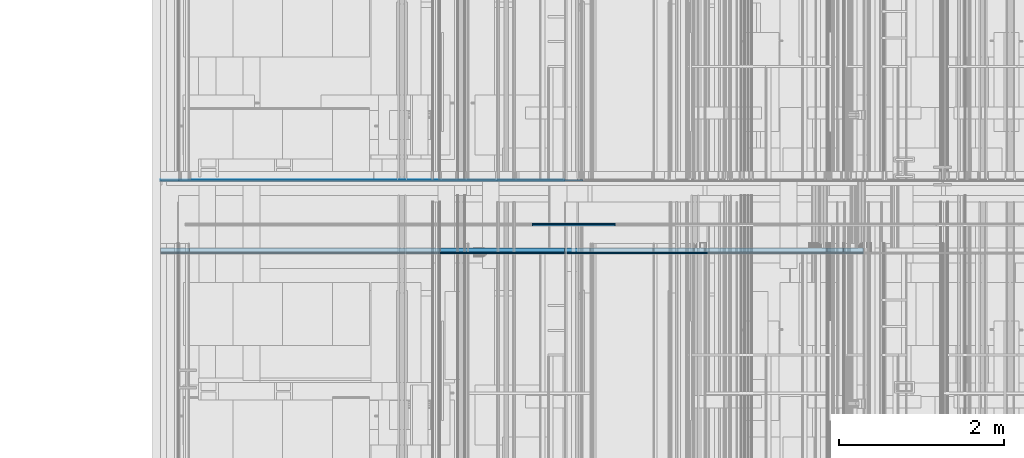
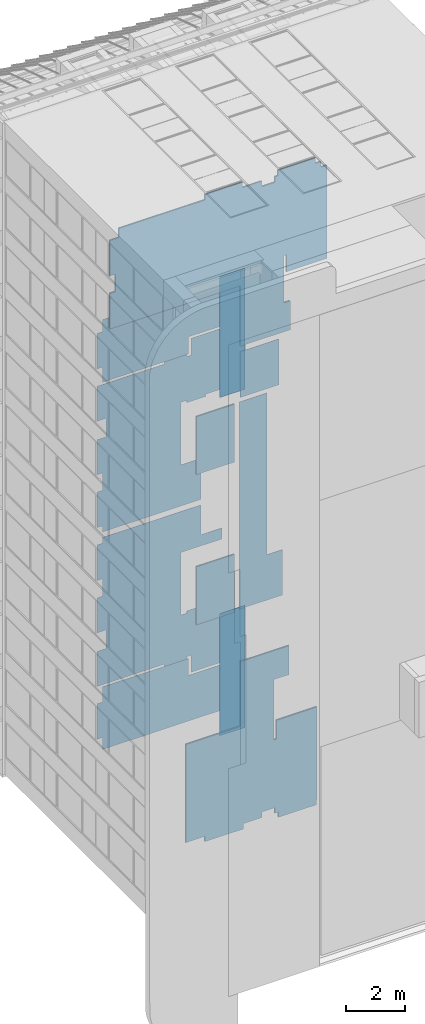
# One storey, part 248 of 583: 18 slabs.
"""IFC2X3 building model written with IfcOpenShell, lengths in metres."""

from ifc_helpers import new_model, entity, si_unit, converted_unit, derived_unit, money_unit, direction, frame, origin_with_axes, place, context, subcontext, project, spatial, faceted_brep, material, type_object, element, save


model = new_model("IFC2X3")

# Units and contexts
model_context = context("Model", 3, precision=1e-05, world=origin_with_axes(), true_north=direction((0.0, 1.0)))
body_context = subcontext(model_context, "Body", "Model", "MODEL_VIEW", scale=1.0)
ifc_project = project(units=[si_unit("LENGTHUNIT", "METRE"), si_unit("AREAUNIT", "SQUARE_METRE"), si_unit("VOLUMEUNIT", "CUBIC_METRE"), si_unit("ABSORBEDDOSEUNIT", "GRAY"), si_unit("AMOUNTOFSUBSTANCEUNIT", "MOLE"), si_unit("DOSEEQUIVALENTUNIT", "SIEVERT"), si_unit("ELECTRICCAPACITANCEUNIT", "FARAD"), si_unit("ELECTRICCHARGEUNIT", "COULOMB"), si_unit("ELECTRICCONDUCTANCEUNIT", "SIEMENS"), si_unit("ELECTRICCURRENTUNIT", "AMPERE"), si_unit("ELECTRICRESISTANCEUNIT", "OHM"), si_unit("ELECTRICVOLTAGEUNIT", "VOLT"), si_unit("ENERGYUNIT", "JOULE"), si_unit("FORCEUNIT", "NEWTON"), si_unit("FREQUENCYUNIT", "HERTZ"), si_unit("ILLUMINANCEUNIT", "LUX"), si_unit("INDUCTANCEUNIT", "HENRY"), si_unit("LUMINOUSFLUXUNIT", "LUMEN"), si_unit("LUMINOUSINTENSITYUNIT", "CANDELA"), si_unit("MAGNETICFLUXDENSITYUNIT", "TESLA"), si_unit("MAGNETICFLUXUNIT", "WEBER"), si_unit("MASSUNIT", "GRAM"), converted_unit("PLANEANGLEUNIT", "degree", entity("IfcReal", 0.0174532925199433), si_unit("PLANEANGLEUNIT", "RADIAN"), dimensions=[0, 0, 0, 0, 0, 0, 0]), si_unit("POWERUNIT", "WATT"), si_unit("PRESSUREUNIT", "PASCAL"), si_unit("RADIOACTIVITYUNIT", "BECQUEREL"), si_unit("SOLIDANGLEUNIT", "STERADIAN"), si_unit("THERMODYNAMICTEMPERATUREUNIT", "KELVIN"), si_unit("TIMEUNIT", "SECOND"), derived_unit("ACCELERATIONUNIT", [(si_unit("LENGTHUNIT", "METRE"), 1), (si_unit("TIMEUNIT", "SECOND"), -2)]), derived_unit("ANGULARVELOCITYUNIT", [(converted_unit("PLANEANGLEUNIT", "degree", entity("IfcReal", 0.0174532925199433), si_unit("PLANEANGLEUNIT", "RADIAN"), dimensions=[0, 0, 0, 0, 0, 0, 0]), 1), (si_unit("TIMEUNIT", "SECOND"), -1)]), derived_unit("CURVATUREUNIT", [(converted_unit("PLANEANGLEUNIT", "degree", entity("IfcReal", 0.0174532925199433), si_unit("PLANEANGLEUNIT", "RADIAN"), dimensions=[0, 0, 0, 0, 0, 0, 0]), 1), (si_unit("LENGTHUNIT", "METRE"), -1)]), derived_unit("DYNAMICVISCOSITYUNIT", [(si_unit("PRESSUREUNIT", "PASCAL"), 1), (si_unit("TIMEUNIT", "SECOND"), 1)]), derived_unit("HEATFLUXDENSITYUNIT", [(si_unit("POWERUNIT", "WATT"), 1), (si_unit("LENGTHUNIT", "METRE"), -2)]), derived_unit("HEATINGVALUEUNIT", [(si_unit("ENERGYUNIT", "JOULE"), 1), (si_unit("MASSUNIT", "GRAM"), -1)]), derived_unit("INTEGERCOUNTRATEUNIT", [(si_unit("TIMEUNIT", "SECOND"), -1)]), derived_unit("IONCONCENTRATIONUNIT", [(si_unit("MASSUNIT", "GRAM"), 1), (si_unit("VOLUMEUNIT", "CUBIC_METRE"), -1)]), derived_unit("ISOTHERMALMOISTURECAPACITYUNIT", [(si_unit("VOLUMEUNIT", "CUBIC_METRE"), 1), (si_unit("MASSUNIT", "GRAM"), -1)]), derived_unit("KINEMATICVISCOSITYUNIT", [(si_unit("AREAUNIT", "SQUARE_METRE"), 1), (si_unit("TIMEUNIT", "SECOND"), -1)]), derived_unit("LINEARFORCEUNIT", [(si_unit("FORCEUNIT", "NEWTON"), 1), (si_unit("LENGTHUNIT", "METRE"), -1)]), derived_unit("LINEARMOMENTUNIT", [(si_unit("FORCEUNIT", "NEWTON"), 1), (si_unit("LENGTHUNIT", "METRE"), -1)]), derived_unit("LINEARSTIFFNESSUNIT", [(si_unit("FORCEUNIT", "NEWTON"), 1), (si_unit("LENGTHUNIT", "METRE"), -1)]), derived_unit("LINEARVELOCITYUNIT", [(si_unit("LENGTHUNIT", "METRE"), 1), (si_unit("TIMEUNIT", "SECOND"), -1)]), derived_unit("LUMINOUSINTENSITYDISTRIBUTIONUNIT", [(si_unit("LUMINOUSINTENSITYUNIT", "CANDELA"), 1), (si_unit("LUMINOUSFLUXUNIT", "LUMEN"), -1)]), derived_unit("MASSDENSITYUNIT", [(si_unit("MASSUNIT", "GRAM"), 1), (si_unit("VOLUMEUNIT", "CUBIC_METRE"), -1)]), derived_unit("MASSFLOWRATEUNIT", [(si_unit("MASSUNIT", "GRAM"), 1), (si_unit("TIMEUNIT", "SECOND"), -1)]), derived_unit("MASSPERLENGTHUNIT", [(si_unit("MASSUNIT", "GRAM"), 1), (si_unit("LENGTHUNIT", "METRE"), -1)]), derived_unit("MODULUSOFELASTICITYUNIT", [(si_unit("FORCEUNIT", "NEWTON"), 1), (si_unit("AREAUNIT", "SQUARE_METRE"), -1)]), derived_unit("MODULUSOFLINEARSUBGRADEREACTIONUNIT", [(si_unit("FORCEUNIT", "NEWTON"), 1), (si_unit("LENGTHUNIT", "METRE"), -2)]), derived_unit("MODULUSOFROTATIONALSUBGRADEREACTIONUNIT", [(si_unit("FORCEUNIT", "NEWTON"), 1), (si_unit("LENGTHUNIT", "METRE"), 1)]), derived_unit("MODULUSOFSUBGRADEREACTIONUNIT", [(si_unit("FORCEUNIT", "NEWTON"), 1), (si_unit("VOLUMEUNIT", "CUBIC_METRE"), -1)]), derived_unit("MOISTUREDIFFUSIVITYUNIT", [(si_unit("VOLUMEUNIT", "CUBIC_METRE"), 1), (si_unit("TIMEUNIT", "SECOND"), -1)]), derived_unit("MOLECULARWEIGHTUNIT", [(si_unit("MASSUNIT", "GRAM"), 1), (si_unit("AMOUNTOFSUBSTANCEUNIT", "MOLE"), -1)]), derived_unit("PLANARFORCEUNIT", [(si_unit("FORCEUNIT", "NEWTON"), 1), (si_unit("LENGTHUNIT", "METRE"), -2)]), derived_unit("ROTATIONALFREQUENCYUNIT", [(si_unit("TIMEUNIT", "SECOND"), -1)]), derived_unit("ROTATIONALMASSUNIT", [(si_unit("MASSUNIT", "GRAM"), 1), (si_unit("LENGTHUNIT", "METRE"), 2)]), derived_unit("ROTATIONALSTIFFNESSUNIT", [(si_unit("FORCEUNIT", "NEWTON"), 1), (si_unit("LENGTHUNIT", "METRE"), 1), (converted_unit("PLANEANGLEUNIT", "degree", entity("IfcReal", 0.0174532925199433), si_unit("PLANEANGLEUNIT", "RADIAN"), dimensions=[0, 0, 0, 0, 0, 0, 0]), -1)]), derived_unit("SECTIONAREAINTEGRALUNIT", [(si_unit("LENGTHUNIT", "METRE"), 5)]), derived_unit("SECTIONMODULUSUNIT", [(si_unit("LENGTHUNIT", "METRE"), 3)]), derived_unit("SHEARMODULUSUNIT", [(si_unit("FORCEUNIT", "NEWTON"), 1), (si_unit("AREAUNIT", "SQUARE_METRE"), -1)]), derived_unit("SOUNDPOWERUNIT", [(si_unit("ENERGYUNIT", "JOULE"), 1), (si_unit("TIMEUNIT", "SECOND"), -1)]), derived_unit("SPECIFICHEATCAPACITYUNIT", [(si_unit("FORCEUNIT", "NEWTON"), 1), (si_unit("MASSUNIT", "GRAM"), -1), (si_unit("THERMODYNAMICTEMPERATUREUNIT", "KELVIN"), -1)]), derived_unit("TEMPERATUREGRADIENTUNIT", [(si_unit("THERMODYNAMICTEMPERATUREUNIT", "KELVIN"), 1), (si_unit("LENGTHUNIT", "METRE"), -1)]), derived_unit("THERMALADMITTANCEUNIT", [(si_unit("POWERUNIT", "WATT"), 1), (si_unit("AREAUNIT", "SQUARE_METRE"), -1), (si_unit("THERMODYNAMICTEMPERATUREUNIT", "KELVIN"), -1)]), derived_unit("THERMALCONDUCTANCEUNIT", [(si_unit("POWERUNIT", "WATT"), 1), (si_unit("LENGTHUNIT", "METRE"), -1), (si_unit("THERMODYNAMICTEMPERATUREUNIT", "KELVIN"), -1)]), derived_unit("THERMALEXPANSIONCOEFFICIENTUNIT", [(si_unit("THERMODYNAMICTEMPERATUREUNIT", "KELVIN"), -1)]), derived_unit("THERMALRESISTANCEUNIT", [(si_unit("AREAUNIT", "SQUARE_METRE"), 1), (si_unit("POWERUNIT", "WATT"), -1)]), derived_unit("THERMALTRANSMITTANCEUNIT", [(si_unit("POWERUNIT", "WATT"), 1), (si_unit("AREAUNIT", "SQUARE_METRE"), -1), (si_unit("THERMODYNAMICTEMPERATUREUNIT", "KELVIN"), -1)]), derived_unit("TORQUEUNIT", [(si_unit("FORCEUNIT", "NEWTON"), 1), (si_unit("LENGTHUNIT", "METRE"), 1)]), derived_unit("VAPORPERMEABILITYUNIT", [(si_unit("MASSUNIT", "GRAM"), 1), (si_unit("TIMEUNIT", "SECOND"), -1)]), derived_unit("VOLUMETRICFLOWRATEUNIT", [(si_unit("VOLUMEUNIT", "CUBIC_METRE"), 1), (si_unit("TIMEUNIT", "SECOND"), -1)]), derived_unit("WARPINGCONSTANTUNIT", [(si_unit("LENGTHUNIT", "METRE"), 6)]), derived_unit("WARPINGMOMENTUNIT", [(si_unit("FORCEUNIT", "NEWTON"), 1), (si_unit("LENGTHUNIT", "METRE"), 2)]), money_unit("GBP")], contexts=[model_context])

# Site, building, storey
site_placement = place(None, origin_with_axes())
site = spatial("IfcSite", under=ifc_project, at=site_placement, Name="Site", CompositionType="ELEMENT")
building_placement = place(site_placement, origin_with_axes())
building = spatial("IfcBuilding", under=site, at=building_placement, Name="Building01", CompositionType="ELEMENT")
storey_placement = place(building_placement, frame((0.0, 0.0, 20.78), z_axis=(0.0, 0.0, 1.0), x_axis=(1.0, 0.0, 0.0)))
storey = spatial("IfcBuildingStorey", under=building, at=storey_placement, Name="RL", CompositionType="ELEMENT", Elevation=20.78)

# Slabs
ifc_material_1 = material(Name="A_BSUK_CeilingSoffitFinishes_Suspended")
slab_type_1 = type_object("IfcSlabType", Name="A-FloorsSlabs A_BSUK_Slabs", PredefinedType="FLOOR")
placement = place(storey_placement, frame((0.0, 0.0, -20.78), z_axis=(0.0, 0.0, 1.0), x_axis=(1.0, 0.0, 0.0)))
element("IfcSlab", 1, at=placement, inside=storey, type_object=slab_type_1, material=ifc_material_1, Name="A-FloorsSlabs A_BSUK_Slabs", ObjectType="CompoundSlabLeaf", context=body_context, shape_type="Brep", body=[
    faceted_brep([(5.15, 7.765, 9.25), (5.15, 7.78, 9.25), (6.85, 7.78, 9.25), (6.85, 7.765, 9.25), (5.15, 7.765, 17.83), (5.15, 7.78, 17.83), (6.25, 7.765, 17.83), (6.25, 7.78, 17.83), (6.25, 7.765, 15.679803), (6.25, 7.78, 15.679803), (6.25, 7.765, 11.13), (6.25, 7.78, 11.13), (6.85, 7.765, 11.13), (6.85, 7.78, 11.13)], [[[0, 1, 2, 3]], [[4, 5, 1, 0]], [[6, 7, 5, 4]], [[8, 9, 7, 6]], [[10, 11, 9, 8]], [[12, 13, 11, 10]], [[3, 2, 13, 12]], [[1, 5, 7, 9, 11, 13, 2]], [[3, 12, 10, 8, 6, 4, 0]]]),
])
element("IfcSlab", 2, at=placement, inside=storey, type_object=slab_type_1, material=ifc_material_1, Name="A-FloorsSlabs A_BSUK_Slabs", ObjectType="CompoundSlabLeaf", context=body_context, shape_type="Brep", body=[
    faceted_brep([(6.705, 7.765, 18.0), (6.705, 7.78, 18.0), (6.705, 7.78, 19.897661), (6.705, 7.765, 19.897661), (5.205, 7.765, 18.0), (5.205, 7.78, 18.0), (5.205, 7.765, 19.897661), (5.205, 7.78, 19.897661)], [[[0, 1, 2, 3]], [[4, 5, 1, 0]], [[6, 7, 5, 4]], [[3, 2, 7, 6]], [[1, 5, 7, 2]], [[3, 6, 4, 0]]]),
])
element("IfcSlab", 3, at=placement, inside=storey, type_object=slab_type_1, material=ifc_material_1, Name="A-FloorsSlabs A_BSUK_Slabs", ObjectType="CompoundSlabLeaf", context=body_context, shape_type="Brep", body=[
    faceted_brep([(4.98, 7.765, 9.192536), (4.98, 7.78, 9.192536), (4.98, 7.78, 11.592536), (4.98, 7.765, 11.592536), (3.48, 7.765, 9.192536), (3.48, 7.78, 9.192536), (3.48, 7.765, 11.592536), (3.48, 7.78, 11.592536), (4.259428, 7.765, 11.592536), (4.259428, 7.78, 11.592536)], [[[0, 1, 2, 3]], [[4, 5, 1, 0]], [[6, 7, 5, 4]], [[8, 9, 7, 6]], [[3, 2, 9, 8]], [[1, 5, 7, 9, 2]], [[3, 8, 6, 4, 0]]]),
])
element("IfcSlab", 4, at=placement, inside=storey, type_object=slab_type_1, material=ifc_material_1, Name="A-FloorsSlabs A_BSUK_Slabs", ObjectType="CompoundSlabLeaf", context=body_context, shape_type="Brep", body=[
    faceted_brep([(5.457147, 7.765, 20.122661), (5.457147, 7.78, 20.122661), (6.457147, 7.78, 20.122661), (6.457147, 7.765, 20.122661), (5.205, 7.765, 20.122661), (5.205, 7.78, 20.122661), (5.205, 7.765, 22.625), (5.205, 7.78, 22.625), (0.1, 7.765, 22.625), (0.1, 7.78, 22.625), (0.1, 7.765, 24.095), (0.1, 7.78, 24.095), (0.318, 7.765, 24.095), (0.318, 7.78, 24.095), (0.318, 7.765, 24.815), (0.318, 7.78, 24.815), (0.1, 7.765, 24.815), (0.1, 7.78, 24.815), (0.1, 7.765, 26.285), (0.1, 7.78, 26.285), (0.448, 7.765, 26.285), (0.448, 7.78, 26.285), (0.448, 7.765, 26.662), (0.448, 7.78, 26.662), (3.82218, 7.765, 26.662), (3.82218, 7.78, 26.662), (3.82218, 7.765, 26.88), (3.82218, 7.78, 26.88), (5.29218, 7.765, 26.88), (5.29218, 7.78, 26.88), (5.29218, 7.765, 26.662), (5.29218, 7.78, 26.662), (6.052, 7.765, 26.662), (6.052, 7.78, 26.662), (6.052, 7.765, 26.432), (6.052, 7.78, 26.432), (6.548, 7.765, 26.432), (6.548, 7.78, 26.432), (6.548, 7.765, 26.662), (6.548, 7.78, 26.662), (6.682326, 7.765, 26.662), (6.682326, 7.78, 26.662), (6.682326, 7.765, 26.88), (6.682326, 7.78, 26.88), (8.152326, 7.765, 26.88), (8.152326, 7.78, 26.88), (8.152326, 7.765, 26.662), (8.152326, 7.78, 26.662), (8.352, 7.765, 26.662), (8.352, 7.78, 26.662), (8.352, 7.765, 26.432), (8.352, 7.78, 26.432), (8.595, 7.765, 26.432), (8.595, 7.78, 26.432), (8.595, 7.765, 22.571661), (8.595, 7.78, 22.571661), (7.0, 7.765, 22.571661), (7.0, 7.78, 22.571661), (7.0, 7.765, 23.271529), (7.0, 7.78, 23.271529), (6.955, 7.765, 23.271529), (6.955, 7.78, 23.271529), (6.905, 7.765, 23.271529), (6.905, 7.78, 23.271529), (6.905, 7.765, 21.322661), (6.905, 7.78, 21.322661), (7.155, 7.765, 21.322661), (7.155, 7.78, 21.322661), (7.155, 7.765, 20.122661), (7.155, 7.78, 20.122661)], [[[0, 1, 2, 3]], [[4, 5, 1, 0]], [[6, 7, 5, 4]], [[8, 9, 7, 6]], [[10, 11, 9, 8]], [[12, 13, 11, 10]], [[14, 15, 13, 12]], [[16, 17, 15, 14]], [[18, 19, 17, 16]], [[20, 21, 19, 18]], [[22, 23, 21, 20]], [[24, 25, 23, 22]], [[26, 27, 25, 24]], [[28, 29, 27, 26]], [[30, 31, 29, 28]], [[32, 33, 31, 30]], [[34, 35, 33, 32]], [[36, 37, 35, 34]], [[38, 39, 37, 36]], [[40, 41, 39, 38]], [[42, 43, 41, 40]], [[44, 45, 43, 42]], [[46, 47, 45, 44]], [[48, 49, 47, 46]], [[50, 51, 49, 48]], [[52, 53, 51, 50]], [[54, 55, 53, 52]], [[56, 57, 55, 54]], [[58, 59, 57, 56]], [[60, 61, 59, 58]], [[62, 63, 61, 60]], [[64, 65, 63, 62]], [[66, 67, 65, 64]], [[68, 69, 67, 66]], [[3, 2, 69, 68]], [[1, 5, 7, 9, 11, 13, 15, 17, 19, 21, 23, 25, 27, 29, 31, 33, 35, 37, 39, 41, 43, 45, 47, 49, 51, 53, 55, 57, 59, 61, 63, 65, 67, 69, 2]], [[3, 68, 66, 64, 62, 60, 58, 56, 54, 52, 50, 48, 46, 44, 42, 40, 38, 36, 34, 32, 30, 28, 26, 24, 22, 20, 18, 16, 14, 12, 10, 8, 6, 4, 0]]]),
])
element("IfcSlab", 5, at=placement, inside=storey, type_object=slab_type_1, material=ifc_material_1, Name="A-FloorsSlabs A_BSUK_Slabs", ObjectType="CompoundSlabLeaf", context=body_context, shape_type="Brep", body=[
    faceted_brep([(4.98, 7.765, 15.4075), (4.98, 7.78, 15.4075), (4.98, 7.78, 17.8075), (4.98, 7.765, 17.8075), (4.259428, 7.765, 15.4075), (4.259428, 7.78, 15.4075), (3.48, 7.765, 15.4075), (3.48, 7.78, 15.4075), (3.48, 7.765, 17.8075), (3.48, 7.78, 17.8075)], [[[0, 1, 2, 3]], [[4, 5, 1, 0]], [[6, 7, 5, 4]], [[8, 9, 7, 6]], [[3, 2, 9, 8]], [[1, 5, 7, 9, 2]], [[3, 8, 6, 4, 0]]]),
])
element("IfcSlab", 6, at=placement, inside=storey, type_object=slab_type_1, material=ifc_material_1, Name="A-FloorsSlabs A_BSUK_Slabs", ObjectType="CompoundSlabLeaf", context=body_context, shape_type="Brep", body=[
    faceted_brep([(6.466475, 7.765, 7.064669), (6.466475, 7.78, 7.064669), (5.466475, 7.78, 7.064669), (5.466475, 7.765, 7.064669), (7.111475, 7.765, 7.064669), (7.111475, 7.78, 7.064669), (7.111475, 7.765, 5.864669), (7.111475, 7.78, 5.864669), (6.511475, 7.765, 5.864669), (6.511475, 7.78, 5.864669), (6.511475, 7.765, 5.771088), (6.511475, 7.78, 5.771088), (6.511475, 7.765, 4.937088), (6.511475, 7.78, 4.937088), (6.511475, 7.765, 3.37073), (6.511475, 7.78, 3.37073), (6.606475, 7.765, 3.37073), (6.606475, 7.78, 3.37073), (6.606475, 7.765, 4.14573), (6.606475, 7.78, 4.14573), (8.21067, 7.765, 4.14573), (8.21067, 7.78, 4.14573), (8.21067, 7.765, 0.318), (8.21067, 7.78, 0.318), (8.185, 7.765, 0.318), (8.185, 7.78, 0.318), (8.185, 7.765, 0.1), (8.185, 7.78, 0.1), (6.69218, 7.765, 0.1), (6.69218, 7.78, 0.1), (6.69218, 7.765, 0.318), (6.69218, 7.78, 0.318), (6.548, 7.765, 0.318), (6.548, 7.78, 0.318), (6.548, 7.765, 0.548), (6.548, 7.78, 0.548), (6.052, 7.765, 0.548), (6.052, 7.78, 0.548), (6.052, 7.765, 0.318), (6.052, 7.78, 0.318), (5.315, 7.765, 0.318), (5.315, 7.78, 0.318), (5.315, 7.765, 0.1), (5.315, 7.78, 0.1), (3.82218, 7.765, 0.1), (3.82218, 7.78, 0.1), (3.82218, 7.765, 0.318), (3.82218, 7.78, 0.318), (3.065286, 7.765, 0.318), (3.065286, 7.78, 0.318), (3.065286, 7.765, 4.385), (3.065286, 7.78, 4.385), (5.205, 7.765, 4.385), (5.205, 7.78, 4.385), (5.205, 7.765, 7.064669), (5.205, 7.78, 7.064669)], [[[0, 1, 2, 3]], [[4, 5, 1, 0]], [[6, 7, 5, 4]], [[8, 9, 7, 6]], [[10, 11, 9, 8]], [[12, 13, 11, 10]], [[14, 15, 13, 12]], [[16, 17, 15, 14]], [[18, 19, 17, 16]], [[20, 21, 19, 18]], [[22, 23, 21, 20]], [[24, 25, 23, 22]], [[26, 27, 25, 24]], [[28, 29, 27, 26]], [[30, 31, 29, 28]], [[32, 33, 31, 30]], [[34, 35, 33, 32]], [[36, 37, 35, 34]], [[38, 39, 37, 36]], [[40, 41, 39, 38]], [[42, 43, 41, 40]], [[44, 45, 43, 42]], [[46, 47, 45, 44]], [[48, 49, 47, 46]], [[50, 51, 49, 48]], [[52, 53, 51, 50]], [[54, 55, 53, 52]], [[3, 2, 55, 54]], [[1, 5, 7, 9, 11, 13, 15, 17, 19, 21, 23, 25, 27, 29, 31, 33, 35, 37, 39, 41, 43, 45, 47, 49, 51, 53, 55, 2]], [[3, 54, 52, 50, 48, 46, 44, 42, 40, 38, 36, 34, 32, 30, 28, 26, 24, 22, 20, 18, 16, 14, 12, 10, 8, 6, 4, 0]]]),
])
element("IfcSlab", 7, at=placement, inside=storey, type_object=slab_type_1, material=ifc_material_1, Name="A-FloorsSlabs A_BSUK_Slabs", ObjectType="CompoundSlabLeaf", context=body_context, shape_type="Brep", body=[
    faceted_brep([(4.593, 8.115, 18.0), (4.593, 8.13, 18.0), (5.593, 8.13, 18.0), (5.593, 8.115, 18.0), (4.593, 8.115, 23.0125), (4.593, 8.13, 23.0125), (5.593, 8.115, 23.0125), (5.593, 8.13, 23.0125)], [[[0, 1, 2, 3]], [[4, 5, 1, 0]], [[6, 7, 5, 4]], [[3, 2, 7, 6]], [[1, 5, 7, 2]], [[3, 6, 4, 0]]]),
])
element("IfcSlab", 8, at=placement, inside=storey, type_object=slab_type_1, material=ifc_material_1, Name="A-FloorsSlabs A_BSUK_Slabs", ObjectType="CompoundSlabLeaf", context=body_context, shape_type="Brep", body=[
    faceted_brep([(4.593, 8.115, 3.997), (4.593, 8.13, 3.997), (5.593, 8.13, 3.997), (5.593, 8.115, 3.997), (4.593, 8.115, 9.06), (4.593, 8.13, 9.06), (5.593, 8.115, 9.06), (5.593, 8.13, 9.06)], [[[0, 1, 2, 3]], [[4, 5, 1, 0]], [[6, 7, 5, 4]], [[3, 2, 7, 6]], [[1, 5, 7, 2]], [[3, 6, 4, 0]]]),
])
element("IfcSlab", 9, at=placement, inside=storey, type_object=slab_type_1, material=ifc_material_1, Name="A-FloorsSlabs A_BSUK_Slabs", ObjectType="CompoundSlabLeaf", context=body_context, shape_type="Brep", body=[
    faceted_brep([(4.593, 8.1, 18.0), (4.593, 8.115, 18.0), (5.593, 8.115, 18.0), (5.593, 8.1, 18.0), (4.593, 8.1, 23.0125), (4.593, 8.115, 23.0125), (5.593, 8.1, 23.0125), (5.593, 8.115, 23.0125)], [[[0, 1, 2, 3]], [[4, 5, 1, 0]], [[6, 7, 5, 4]], [[3, 2, 7, 6]], [[1, 5, 7, 2]], [[3, 6, 4, 0]]]),
])
element("IfcSlab", 10, at=placement, inside=storey, type_object=slab_type_1, material=ifc_material_1, Name="A-FloorsSlabs A_BSUK_Slabs", ObjectType="CompoundSlabLeaf", context=body_context, shape_type="Brep", body=[
    faceted_brep([(4.593, 8.1, 3.997), (4.593, 8.115, 3.997), (5.593, 8.115, 3.997), (5.593, 8.1, 3.997), (4.593, 8.1, 9.06), (4.593, 8.115, 9.06), (5.593, 8.1, 9.06), (5.593, 8.115, 9.06)], [[[0, 1, 2, 3]], [[4, 5, 1, 0]], [[6, 7, 5, 4]], [[3, 2, 7, 6]], [[1, 5, 7, 2]], [[3, 6, 4, 0]]]),
])
ifc_material_2 = material(Name="A_BSUK_Parquet_Floor")
element("IfcSlab", 11, at=placement, inside=storey, type_object=slab_type_1, material=ifc_material_2, Name="A-FloorsSlabs A_BSUK_Slabs", ObjectType="CompoundSlabLeaf", context=body_context, shape_type="Brep", body=[
    faceted_brep([(4.98, 8.643, 18.392), (4.98, 8.655, 18.392), (5.205, 8.655, 18.392), (5.205, 8.643, 18.392), (4.98, 8.643, 17.9025), (4.98, 8.655, 17.9025), (4.363781, 8.643, 17.9025), (4.363781, 8.655, 17.9025), (4.363781, 8.643, 17.8075), (4.363781, 8.655, 17.8075), (3.613781, 8.643, 17.8075), (3.613781, 8.655, 17.8075), (3.613781, 8.643, 17.9025), (3.613781, 8.655, 17.9025), (3.385, 8.643, 17.9025), (3.385, 8.655, 17.9025), (3.385, 8.643, 15.3125), (3.385, 8.655, 15.3125), (4.98, 8.643, 15.3125), (4.98, 8.655, 15.3125), (4.98, 8.643, 14.85), (4.98, 8.655, 14.85), (4.164428, 8.643, 14.85), (4.164428, 8.655, 14.85), (4.164428, 8.643, 13.6125), (4.164428, 8.655, 13.6125), (0.318, 8.643, 13.6125), (0.318, 8.655, 13.6125), (0.318, 8.643, 13.865), (0.318, 8.655, 13.865), (0.1, 8.643, 13.865), (0.1, 8.655, 13.865), (0.1, 8.643, 15.335), (0.1, 8.655, 15.335), (0.318, 8.643, 15.335), (0.318, 8.655, 15.335), (0.318, 8.643, 16.055), (0.318, 8.655, 16.055), (0.1, 8.643, 16.055), (0.1, 8.655, 16.055), (0.1, 8.643, 17.502), (0.1, 8.655, 17.502), (0.448, 8.643, 17.502), (0.448, 8.655, 17.502), (0.448, 8.643, 18.268), (0.448, 8.655, 18.268), (0.1, 8.643, 18.268), (0.1, 8.655, 18.268), (0.1, 8.643, 19.715), (0.1, 8.655, 19.715), (2.716, 8.643, 19.715), (2.716, 8.655, 19.715), (2.716, 8.643, 19.81), (2.716, 8.655, 19.81), (3.616, 8.643, 19.81), (3.616, 8.655, 19.81), (3.616, 8.643, 19.715), (3.616, 8.655, 19.715), (3.78, 8.643, 19.715), (3.78, 8.655, 19.715), (3.78, 8.643, 20.415), (3.78, 8.655, 20.415), (4.98, 8.643, 20.415), (4.98, 8.655, 20.415), (4.98, 8.643, 19.392), (4.98, 8.655, 19.392), (5.205, 8.643, 19.392), (5.205, 8.655, 19.392)], [[[0, 1, 2, 3]], [[4, 5, 1, 0]], [[6, 7, 5, 4]], [[8, 9, 7, 6]], [[10, 11, 9, 8]], [[12, 13, 11, 10]], [[14, 15, 13, 12]], [[16, 17, 15, 14]], [[18, 19, 17, 16]], [[20, 21, 19, 18]], [[22, 23, 21, 20]], [[24, 25, 23, 22]], [[26, 27, 25, 24]], [[28, 29, 27, 26]], [[30, 31, 29, 28]], [[32, 33, 31, 30]], [[34, 35, 33, 32]], [[36, 37, 35, 34]], [[38, 39, 37, 36]], [[40, 41, 39, 38]], [[42, 43, 41, 40]], [[44, 45, 43, 42]], [[46, 47, 45, 44]], [[48, 49, 47, 46]], [[50, 51, 49, 48]], [[52, 53, 51, 50]], [[54, 55, 53, 52]], [[56, 57, 55, 54]], [[58, 59, 57, 56]], [[60, 61, 59, 58]], [[62, 63, 61, 60]], [[64, 65, 63, 62]], [[66, 67, 65, 64]], [[3, 2, 67, 66]], [[1, 5, 7, 9, 11, 13, 15, 17, 19, 21, 23, 25, 27, 29, 31, 33, 35, 37, 39, 41, 43, 45, 47, 49, 51, 53, 55, 57, 59, 61, 63, 65, 67, 2]], [[3, 66, 64, 62, 60, 58, 56, 54, 52, 50, 48, 46, 44, 42, 40, 38, 36, 34, 32, 30, 28, 26, 24, 22, 20, 18, 16, 14, 12, 10, 8, 6, 4, 0]]]),
])
ifc_material_3 = material(Name="A_BSUK_Carpet-Pile")
element("IfcSlab", 12, at=placement, inside=storey, type_object=slab_type_1, material=ifc_material_3, Name="A-FloorsSlabs A_BSUK_Slabs", ObjectType="CompoundSlabLeaf", context=body_context, shape_type="Brep", body=[
    faceted_brep([(4.98, 8.643, 20.51), (4.98, 8.655, 20.51), (4.98, 8.655, 22.4), (4.98, 8.643, 22.4), (3.685, 8.643, 20.51), (3.685, 8.655, 20.51), (3.685, 8.643, 19.81), (3.685, 8.655, 19.81), (0.318, 8.643, 19.81), (0.318, 8.655, 19.81), (0.318, 8.643, 20.435), (0.318, 8.655, 20.435), (0.1, 8.643, 20.435), (0.1, 8.655, 20.435), (0.1, 8.643, 21.905), (0.1, 8.655, 21.905), (0.318, 8.643, 21.905), (0.318, 8.655, 21.905), (0.318, 8.643, 22.4), (0.318, 8.655, 22.4)], [[[0, 1, 2, 3]], [[4, 5, 1, 0]], [[6, 7, 5, 4]], [[8, 9, 7, 6]], [[10, 11, 9, 8]], [[12, 13, 11, 10]], [[14, 15, 13, 12]], [[16, 17, 15, 14]], [[18, 19, 17, 16]], [[3, 2, 19, 18]], [[1, 5, 7, 9, 11, 13, 15, 17, 19, 2]], [[3, 18, 16, 14, 12, 10, 8, 6, 4, 0]]]),
])
element("IfcSlab", 13, at=placement, inside=storey, type_object=slab_type_1, material=ifc_material_2, Name="A-FloorsSlabs A_BSUK_Slabs", ObjectType="CompoundSlabLeaf", context=body_context, shape_type="Brep", body=[
    faceted_brep([(5.205, 8.643, 8.4725), (5.205, 8.655, 8.4725), (4.98, 8.655, 8.4725), (4.98, 8.643, 8.4725), (5.205, 8.643, 7.4725), (5.205, 8.655, 7.4725), (4.98, 8.643, 7.4725), (4.98, 8.655, 7.4725), (4.98, 8.643, 6.595), (4.98, 8.655, 6.595), (3.78, 8.643, 6.595), (3.78, 8.655, 6.595), (3.78, 8.643, 7.295), (3.78, 8.655, 7.295), (3.616, 8.643, 7.295), (3.616, 8.655, 7.295), (3.616, 8.643, 7.2), (3.616, 8.655, 7.2), (2.716, 8.643, 7.2), (2.716, 8.655, 7.2), (2.716, 8.643, 7.295), (2.716, 8.655, 7.295), (0.1, 8.643, 7.295), (0.1, 8.655, 7.295), (0.1, 8.643, 8.742), (0.1, 8.655, 8.742), (0.448, 8.643, 8.742), (0.448, 8.655, 8.742), (0.448, 8.643, 9.508), (0.448, 8.655, 9.508), (0.1, 8.643, 9.508), (0.1, 8.655, 9.508), (0.1, 8.643, 10.955), (0.1, 8.655, 10.955), (0.318, 8.643, 10.955), (0.318, 8.655, 10.955), (0.318, 8.643, 11.675), (0.318, 8.655, 11.675), (0.1, 8.643, 11.675), (0.1, 8.655, 11.675), (0.1, 8.643, 13.145), (0.1, 8.655, 13.145), (0.318, 8.643, 13.145), (0.318, 8.655, 13.145), (0.318, 8.643, 13.3875), (0.318, 8.655, 13.3875), (4.164428, 8.643, 13.3875), (4.164428, 8.655, 13.3875), (4.164428, 8.643, 12.15), (4.164428, 8.655, 12.15), (4.98, 8.643, 12.15), (4.98, 8.655, 12.15), (4.98, 8.643, 11.687536), (4.98, 8.655, 11.687536), (3.385, 8.643, 11.687536), (3.385, 8.655, 11.687536), (3.385, 8.643, 9.097536), (3.385, 8.655, 9.097536), (3.613781, 8.643, 9.097536), (3.613781, 8.655, 9.097536), (3.613781, 8.643, 9.192536), (3.613781, 8.655, 9.192536), (4.363781, 8.643, 9.192536), (4.363781, 8.655, 9.192536), (4.363781, 8.643, 9.097536), (4.363781, 8.655, 9.097536), (4.98, 8.643, 9.097536), (4.98, 8.655, 9.097536)], [[[0, 1, 2, 3]], [[4, 5, 1, 0]], [[6, 7, 5, 4]], [[8, 9, 7, 6]], [[10, 11, 9, 8]], [[12, 13, 11, 10]], [[14, 15, 13, 12]], [[16, 17, 15, 14]], [[18, 19, 17, 16]], [[20, 21, 19, 18]], [[22, 23, 21, 20]], [[24, 25, 23, 22]], [[26, 27, 25, 24]], [[28, 29, 27, 26]], [[30, 31, 29, 28]], [[32, 33, 31, 30]], [[34, 35, 33, 32]], [[36, 37, 35, 34]], [[38, 39, 37, 36]], [[40, 41, 39, 38]], [[42, 43, 41, 40]], [[44, 45, 43, 42]], [[46, 47, 45, 44]], [[48, 49, 47, 46]], [[50, 51, 49, 48]], [[52, 53, 51, 50]], [[54, 55, 53, 52]], [[56, 57, 55, 54]], [[58, 59, 57, 56]], [[60, 61, 59, 58]], [[62, 63, 61, 60]], [[64, 65, 63, 62]], [[66, 67, 65, 64]], [[3, 2, 67, 66]], [[1, 5, 7, 9, 11, 13, 15, 17, 19, 21, 23, 25, 27, 29, 31, 33, 35, 37, 39, 41, 43, 45, 47, 49, 51, 53, 55, 57, 59, 61, 63, 65, 67, 2]], [[3, 66, 64, 62, 60, 58, 56, 54, 52, 50, 48, 46, 44, 42, 40, 38, 36, 34, 32, 30, 28, 26, 24, 22, 20, 18, 16, 14, 12, 10, 8, 6, 4, 0]]]),
])
element("IfcSlab", 14, at=placement, inside=storey, type_object=slab_type_1, material=ifc_material_3, Name="A-FloorsSlabs A_BSUK_Slabs", ObjectType="CompoundSlabLeaf", context=body_context, shape_type="Brep", body=[
    faceted_brep([(4.98, 8.643, 4.61), (4.98, 8.655, 4.61), (4.98, 8.655, 6.5), (4.98, 8.643, 6.5), (0.318, 8.643, 4.61), (0.318, 8.655, 4.61), (0.318, 8.643, 5.105), (0.318, 8.655, 5.105), (0.1, 8.643, 5.105), (0.1, 8.655, 5.105), (0.1, 8.643, 6.575), (0.1, 8.655, 6.575), (0.318, 8.643, 6.575), (0.318, 8.655, 6.575), (0.318, 8.643, 7.2), (0.318, 8.655, 7.2), (3.685, 8.643, 7.2), (3.685, 8.655, 7.2), (3.685, 8.643, 6.5), (3.685, 8.655, 6.5)], [[[0, 1, 2, 3]], [[4, 5, 1, 0]], [[6, 7, 5, 4]], [[8, 9, 7, 6]], [[10, 11, 9, 8]], [[12, 13, 11, 10]], [[14, 15, 13, 12]], [[16, 17, 15, 14]], [[18, 19, 17, 16]], [[3, 2, 19, 18]], [[1, 5, 7, 9, 11, 13, 15, 17, 19, 2]], [[3, 18, 16, 14, 12, 10, 8, 6, 4, 0]]]),
])
ifc_material_4 = material(Name="A_BSUK_ExpandedPolystyreneBoards")
slab_type_2 = type_object("IfcSlabType", Name="A-FloorsSlabs A_BSUK_ExpandedPolystyreneBoards", PredefinedType="FLOOR")
element("IfcSlab", 15, at=placement, inside=storey, type_object=slab_type_2, material=ifc_material_4, Name="A-FloorsSlabs A_BSUK_ExpandedPolystyreneBoards", ObjectType="CompoundSlabLeaf", context=body_context, shape_type="Brep", body=[
    faceted_brep([(4.98, 7.78, 9.192536), (4.98, 7.83, 9.192536), (4.98, 7.83, 11.592536), (4.98, 7.78, 11.592536), (3.48, 7.78, 9.192536), (3.48, 7.83, 9.192536), (3.48, 7.78, 11.592536), (3.48, 7.83, 11.592536), (4.259428, 7.78, 11.592536), (4.259428, 7.83, 11.592536)], [[[0, 1, 2, 3]], [[4, 5, 1, 0]], [[6, 7, 5, 4]], [[8, 9, 7, 6]], [[3, 2, 9, 8]], [[1, 5, 7, 9, 2]], [[3, 8, 6, 4, 0]]]),
])
element("IfcSlab", 16, at=placement, inside=storey, type_object=slab_type_2, material=ifc_material_4, Name="A-FloorsSlabs A_BSUK_ExpandedPolystyreneBoards", ObjectType="CompoundSlabLeaf", context=body_context, shape_type="Brep", body=[
    faceted_brep([(5.457147, 7.78, 20.122661), (5.457147, 7.83, 20.122661), (6.457147, 7.83, 20.122661), (6.457147, 7.78, 20.122661), (5.205, 7.78, 20.122661), (5.205, 7.83, 20.122661), (5.205, 7.78, 22.625), (5.205, 7.83, 22.625), (0.1, 7.78, 22.625), (0.1, 7.83, 22.625), (0.1, 7.78, 24.095), (0.1, 7.83, 24.095), (0.318, 7.78, 24.095), (0.318, 7.83, 24.095), (0.318, 7.78, 24.815), (0.318, 7.83, 24.815), (0.1, 7.78, 24.815), (0.1, 7.83, 24.815), (0.1, 7.78, 26.285), (0.1, 7.83, 26.285), (0.448, 7.78, 26.285), (0.448, 7.83, 26.285), (0.448, 7.78, 26.662), (0.448, 7.83, 26.662), (3.82218, 7.78, 26.662), (3.82218, 7.83, 26.662), (3.82218, 7.78, 26.88), (3.82218, 7.83, 26.88), (5.29218, 7.78, 26.88), (5.29218, 7.83, 26.88), (5.29218, 7.78, 26.662), (5.29218, 7.83, 26.662), (6.052, 7.78, 26.662), (6.052, 7.83, 26.662), (6.052, 7.78, 26.432), (6.052, 7.83, 26.432), (6.548, 7.78, 26.432), (6.548, 7.83, 26.432), (6.548, 7.78, 26.662), (6.548, 7.83, 26.662), (6.682326, 7.78, 26.662), (6.682326, 7.83, 26.662), (6.682326, 7.78, 26.88), (6.682326, 7.83, 26.88), (8.152326, 7.78, 26.88), (8.152326, 7.83, 26.88), (8.152326, 7.78, 26.662), (8.152326, 7.83, 26.662), (8.352, 7.78, 26.662), (8.352, 7.83, 26.662), (8.352, 7.78, 26.432), (8.352, 7.83, 26.432), (8.595, 7.78, 26.432), (8.595, 7.83, 26.432), (8.595, 7.78, 22.571661), (8.595, 7.83, 22.571661), (7.0, 7.78, 22.571661), (7.0, 7.83, 22.571661), (7.0, 7.78, 23.271529), (7.0, 7.83, 23.271529), (6.955, 7.78, 23.271529), (6.955, 7.83, 23.271529), (6.905, 7.78, 23.271529), (6.905, 7.83, 23.271529), (6.905, 7.78, 21.322661), (6.905, 7.83, 21.322661), (7.155, 7.78, 21.322661), (7.155, 7.83, 21.322661), (7.155, 7.78, 20.122661), (7.155, 7.83, 20.122661)], [[[0, 1, 2, 3]], [[4, 5, 1, 0]], [[6, 7, 5, 4]], [[8, 9, 7, 6]], [[10, 11, 9, 8]], [[12, 13, 11, 10]], [[14, 15, 13, 12]], [[16, 17, 15, 14]], [[18, 19, 17, 16]], [[20, 21, 19, 18]], [[22, 23, 21, 20]], [[24, 25, 23, 22]], [[26, 27, 25, 24]], [[28, 29, 27, 26]], [[30, 31, 29, 28]], [[32, 33, 31, 30]], [[34, 35, 33, 32]], [[36, 37, 35, 34]], [[38, 39, 37, 36]], [[40, 41, 39, 38]], [[42, 43, 41, 40]], [[44, 45, 43, 42]], [[46, 47, 45, 44]], [[48, 49, 47, 46]], [[50, 51, 49, 48]], [[52, 53, 51, 50]], [[54, 55, 53, 52]], [[56, 57, 55, 54]], [[58, 59, 57, 56]], [[60, 61, 59, 58]], [[62, 63, 61, 60]], [[64, 65, 63, 62]], [[66, 67, 65, 64]], [[68, 69, 67, 66]], [[3, 2, 69, 68]], [[1, 5, 7, 9, 11, 13, 15, 17, 19, 21, 23, 25, 27, 29, 31, 33, 35, 37, 39, 41, 43, 45, 47, 49, 51, 53, 55, 57, 59, 61, 63, 65, 67, 69, 2]], [[3, 68, 66, 64, 62, 60, 58, 56, 54, 52, 50, 48, 46, 44, 42, 40, 38, 36, 34, 32, 30, 28, 26, 24, 22, 20, 18, 16, 14, 12, 10, 8, 6, 4, 0]]]),
])
element("IfcSlab", 17, at=placement, inside=storey, type_object=slab_type_2, material=ifc_material_4, Name="A-FloorsSlabs A_BSUK_ExpandedPolystyreneBoards", ObjectType="CompoundSlabLeaf", context=body_context, shape_type="Brep", body=[
    faceted_brep([(4.98, 7.78, 15.4075), (4.98, 7.83, 15.4075), (4.98, 7.83, 17.8075), (4.98, 7.78, 17.8075), (4.259428, 7.78, 15.4075), (4.259428, 7.83, 15.4075), (3.48, 7.78, 15.4075), (3.48, 7.83, 15.4075), (3.48, 7.78, 17.8075), (3.48, 7.83, 17.8075)], [[[0, 1, 2, 3]], [[4, 5, 1, 0]], [[6, 7, 5, 4]], [[8, 9, 7, 6]], [[3, 2, 9, 8]], [[1, 5, 7, 9, 2]], [[3, 8, 6, 4, 0]]]),
])
element("IfcSlab", 18, at=placement, inside=storey, type_object=slab_type_2, material=ifc_material_4, Name="A-FloorsSlabs A_BSUK_ExpandedPolystyreneBoards", ObjectType="CompoundSlabLeaf", context=body_context, shape_type="Brep", body=[
    faceted_brep([(6.466475, 7.78, 7.064669), (6.466475, 7.83, 7.064669), (5.466475, 7.83, 7.064669), (5.466475, 7.78, 7.064669), (7.111475, 7.78, 7.064669), (7.111475, 7.83, 7.064669), (7.111475, 7.78, 5.864669), (7.111475, 7.83, 5.864669), (6.511475, 7.78, 5.864669), (6.511475, 7.83, 5.864669), (6.511475, 7.78, 5.771088), (6.511475, 7.83, 5.771088), (6.511475, 7.78, 4.937088), (6.511475, 7.83, 4.937088), (6.511475, 7.78, 3.37073), (6.511475, 7.83, 3.37073), (6.606475, 7.78, 3.37073), (6.606475, 7.83, 3.37073), (6.606475, 7.78, 4.14573), (6.606475, 7.83, 4.14573), (8.21067, 7.78, 4.14573), (8.21067, 7.83, 4.14573), (8.21067, 7.78, 0.318), (8.21067, 7.83, 0.318), (8.185, 7.78, 0.318), (8.185, 7.83, 0.318), (8.185, 7.78, 0.1), (8.185, 7.83, 0.1), (6.69218, 7.78, 0.1), (6.69218, 7.83, 0.1), (6.69218, 7.78, 0.318), (6.69218, 7.83, 0.318), (6.548, 7.78, 0.318), (6.548, 7.83, 0.318), (6.548, 7.78, 0.548), (6.548, 7.83, 0.548), (6.052, 7.78, 0.548), (6.052, 7.83, 0.548), (6.052, 7.78, 0.318), (6.052, 7.83, 0.318), (5.315, 7.78, 0.318), (5.315, 7.83, 0.318), (5.315, 7.78, 0.1), (5.315, 7.83, 0.1), (3.82218, 7.78, 0.1), (3.82218, 7.83, 0.1), (3.82218, 7.78, 0.318), (3.82218, 7.83, 0.318), (3.065286, 7.78, 0.318), (3.065286, 7.83, 0.318), (3.065286, 7.78, 4.385), (3.065286, 7.83, 4.385), (5.205, 7.78, 4.385), (5.205, 7.83, 4.385), (5.205, 7.78, 7.064669), (5.205, 7.83, 7.064669)], [[[0, 1, 2, 3]], [[4, 5, 1, 0]], [[6, 7, 5, 4]], [[8, 9, 7, 6]], [[10, 11, 9, 8]], [[12, 13, 11, 10]], [[14, 15, 13, 12]], [[16, 17, 15, 14]], [[18, 19, 17, 16]], [[20, 21, 19, 18]], [[22, 23, 21, 20]], [[24, 25, 23, 22]], [[26, 27, 25, 24]], [[28, 29, 27, 26]], [[30, 31, 29, 28]], [[32, 33, 31, 30]], [[34, 35, 33, 32]], [[36, 37, 35, 34]], [[38, 39, 37, 36]], [[40, 41, 39, 38]], [[42, 43, 41, 40]], [[44, 45, 43, 42]], [[46, 47, 45, 44]], [[48, 49, 47, 46]], [[50, 51, 49, 48]], [[52, 53, 51, 50]], [[54, 55, 53, 52]], [[3, 2, 55, 54]], [[1, 5, 7, 9, 11, 13, 15, 17, 19, 21, 23, 25, 27, 29, 31, 33, 35, 37, 39, 41, 43, 45, 47, 49, 51, 53, 55, 2]], [[3, 54, 52, 50, 48, 46, 44, 42, 40, 38, 36, 34, 32, 30, 28, 26, 24, 22, 20, 18, 16, 14, 12, 10, 8, 6, 4, 0]]]),
])

save(model, "model.ifc")
